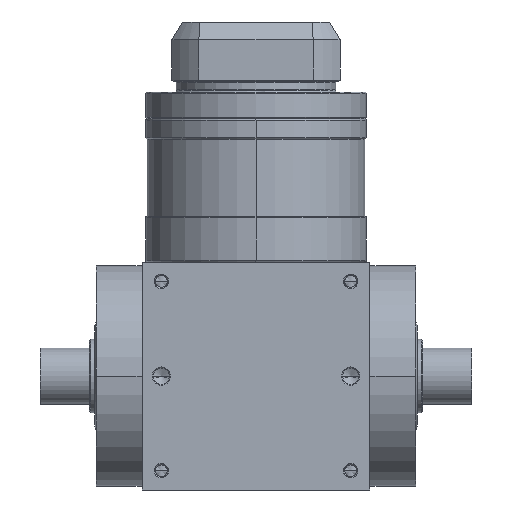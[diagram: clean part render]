
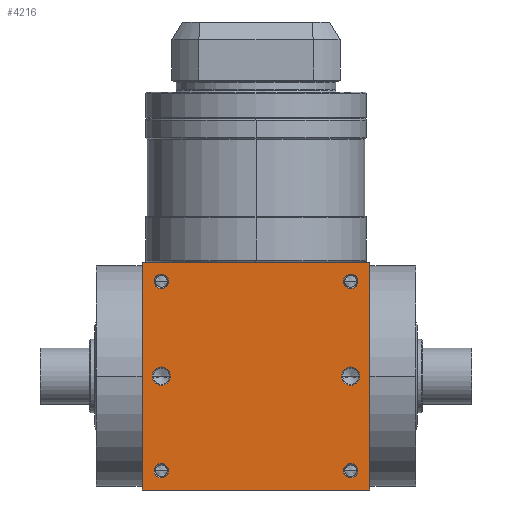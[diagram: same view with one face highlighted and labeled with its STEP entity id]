
A CAD part, front view. The second image highlights one B-rep face of the part: STEP entity #4216.
In plain terms, the highlighted planar face has unit normal (0, -1, 0).
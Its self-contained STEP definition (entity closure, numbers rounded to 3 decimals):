
#5=DIRECTION('',(1.,0.,0.));
#6=VECTOR('',#5,65.);
#7=CARTESIAN_POINT('',(-32.5,-32.5,-32.5));
#8=LINE('',#7,#6);
#155=DIRECTION('',(0.,0.,1.));
#156=VECTOR('',#155,65.);
#157=CARTESIAN_POINT('',(32.5,-32.5,-32.5));
#158=LINE('',#157,#156);
#209=DIRECTION('',(0.,0.,1.));
#210=VECTOR('',#209,65.);
#211=CARTESIAN_POINT('',(-32.5,-32.5,-32.5));
#212=LINE('',#211,#210);
#213=CARTESIAN_POINT('',(27.,-32.5,27.));
#214=DIRECTION('',(0.,1.,0.));
#215=DIRECTION('',(-1.,0.,0.));
#216=AXIS2_PLACEMENT_3D('',#213,#214,#215);
#218=CARTESIAN_POINT('',(27.,-32.5,27.));
#219=DIRECTION('',(0.,1.,0.));
#220=DIRECTION('',(1.,0.,0.));
#221=AXIS2_PLACEMENT_3D('',#218,#219,#220);
#223=CARTESIAN_POINT('',(-27.,-32.5,27.));
#224=DIRECTION('',(0.,1.,0.));
#225=DIRECTION('',(-1.,0.,0.));
#226=AXIS2_PLACEMENT_3D('',#223,#224,#225);
#228=CARTESIAN_POINT('',(-27.,-32.5,27.));
#229=DIRECTION('',(0.,1.,0.));
#230=DIRECTION('',(1.,0.,0.));
#231=AXIS2_PLACEMENT_3D('',#228,#229,#230);
#233=CARTESIAN_POINT('',(27.,-32.5,-27.));
#234=DIRECTION('',(0.,1.,0.));
#235=DIRECTION('',(-1.,0.,0.));
#236=AXIS2_PLACEMENT_3D('',#233,#234,#235);
#238=CARTESIAN_POINT('',(27.,-32.5,-27.));
#239=DIRECTION('',(0.,1.,0.));
#240=DIRECTION('',(1.,0.,0.));
#241=AXIS2_PLACEMENT_3D('',#238,#239,#240);
#243=CARTESIAN_POINT('',(-27.,-32.5,-27.));
#244=DIRECTION('',(0.,1.,0.));
#245=DIRECTION('',(-1.,0.,0.));
#246=AXIS2_PLACEMENT_3D('',#243,#244,#245);
#248=CARTESIAN_POINT('',(-27.,-32.5,-27.));
#249=DIRECTION('',(0.,1.,0.));
#250=DIRECTION('',(1.,0.,0.));
#251=AXIS2_PLACEMENT_3D('',#248,#249,#250);
#253=CARTESIAN_POINT('',(-27.,-32.5,0.));
#254=DIRECTION('',(0.,1.,0.));
#255=DIRECTION('',(1.,0.,0.));
#256=AXIS2_PLACEMENT_3D('',#253,#254,#255);
#258=CARTESIAN_POINT('',(-27.,-32.5,0.));
#259=DIRECTION('',(0.,1.,0.));
#260=DIRECTION('',(-1.,0.,0.));
#261=AXIS2_PLACEMENT_3D('',#258,#259,#260);
#263=CARTESIAN_POINT('',(27.,-32.5,0.));
#264=DIRECTION('',(0.,1.,0.));
#265=DIRECTION('',(1.,0.,0.));
#266=AXIS2_PLACEMENT_3D('',#263,#264,#265);
#268=CARTESIAN_POINT('',(27.,-32.5,0.));
#269=DIRECTION('',(0.,1.,0.));
#270=DIRECTION('',(-1.,0.,0.));
#271=AXIS2_PLACEMENT_3D('',#268,#269,#270);
#285=DIRECTION('',(1.,0.,0.));
#286=VECTOR('',#285,65.);
#287=CARTESIAN_POINT('',(-32.5,-32.5,32.5));
#288=LINE('',#287,#286);
#3374=CARTESIAN_POINT('',(-32.5,-32.5,-32.5));
#3376=VERTEX_POINT('',#3374);
#3377=CARTESIAN_POINT('',(32.5,-32.5,-32.5));
#3378=VERTEX_POINT('',#3377);
#3382=CARTESIAN_POINT('',(-32.5,-32.5,32.5));
#3384=VERTEX_POINT('',#3382);
#3385=CARTESIAN_POINT('',(32.5,-32.5,32.5));
#3386=VERTEX_POINT('',#3385);
#3541=CARTESIAN_POINT('',(24.95,-32.5,27.));
#3542=CARTESIAN_POINT('',(29.05,-32.5,27.));
#3543=VERTEX_POINT('',#3541);
#3544=VERTEX_POINT('',#3542);
#3549=CARTESIAN_POINT('',(-29.05,-32.5,27.));
#3550=CARTESIAN_POINT('',(-24.95,-32.5,27.));
#3551=VERTEX_POINT('',#3549);
#3552=VERTEX_POINT('',#3550);
#3557=CARTESIAN_POINT('',(24.95,-32.5,-27.));
#3558=CARTESIAN_POINT('',(29.05,-32.5,-27.));
#3559=VERTEX_POINT('',#3557);
#3560=VERTEX_POINT('',#3558);
#3565=CARTESIAN_POINT('',(-29.05,-32.5,-27.));
#3566=CARTESIAN_POINT('',(-24.95,-32.5,-27.));
#3567=VERTEX_POINT('',#3565);
#3568=VERTEX_POINT('',#3566);
#3889=CARTESIAN_POINT('',(-24.4,-32.5,0.));
#3890=CARTESIAN_POINT('',(-29.6,-32.5,
0.));
#3891=VERTEX_POINT('',#3889);
#3892=VERTEX_POINT('',#3890);
#3897=CARTESIAN_POINT('',(29.6,-32.5,0.));
#3898=CARTESIAN_POINT('',(24.4,-32.5,0.));
#3899=VERTEX_POINT('',#3897);
#3900=VERTEX_POINT('',#3898);
#4168=CARTESIAN_POINT('',(-32.5,-32.5,-32.5));
#4169=DIRECTION('',(0.,-1.,0.));
#4170=DIRECTION('',(1.,0.,0.));
#4171=AXIS2_PLACEMENT_3D('',#4168,#4169,#4170);
#4172=PLANE('',#4171);
#4173=ORIENTED_EDGE('',*,*,#4008,.F.);
#4174=ORIENTED_EDGE('',*,*,#4051,.T.);
#4176=ORIENTED_EDGE('',*,*,#4175,.T.);
#4177=ORIENTED_EDGE('',*,*,#4130,.F.);
#4178=EDGE_LOOP('',(#4173,#4174,#4176,#4177));
#4179=FACE_OUTER_BOUND('',#4178,.F.);
#4181=ORIENTED_EDGE('',*,*,#4180,.F.);
#4183=ORIENTED_EDGE('',*,*,#4182,.F.);
#4184=EDGE_LOOP('',(#4181,#4183));
#4185=FACE_BOUND('',#4184,.F.);
#4187=ORIENTED_EDGE('',*,*,#4186,.F.);
#4189=ORIENTED_EDGE('',*,*,#4188,.F.);
#4190=EDGE_LOOP('',(#4187,#4189));
#4191=FACE_BOUND('',#4190,.F.);
#4193=ORIENTED_EDGE('',*,*,#4192,.F.);
#4195=ORIENTED_EDGE('',*,*,#4194,.F.);
#4196=EDGE_LOOP('',(#4193,#4195));
#4197=FACE_BOUND('',#4196,.F.);
#4199=ORIENTED_EDGE('',*,*,#4198,.F.);
#4201=ORIENTED_EDGE('',*,*,#4200,.F.);
#4202=EDGE_LOOP('',(#4199,#4201));
#4203=FACE_BOUND('',#4202,.F.);
#4205=ORIENTED_EDGE('',*,*,#4204,.F.);
#4207=ORIENTED_EDGE('',*,*,#4206,.F.);
#4208=EDGE_LOOP('',(#4205,#4207));
#4209=FACE_BOUND('',#4208,.F.);
#4211=ORIENTED_EDGE('',*,*,#4210,.F.);
#4213=ORIENTED_EDGE('',*,*,#4212,.F.);
#4214=EDGE_LOOP('',(#4211,#4213));
#4215=FACE_BOUND('',#4214,.F.);
#4216=ADVANCED_FACE('',(#4179,#4185,#4191,#4197,#4203,#4209,#4215),#4172,.T.);
#217=CIRCLE('',#216,2.05);
#222=CIRCLE('',#221,2.05);
#227=CIRCLE('',#226,2.05);
#232=CIRCLE('',#231,2.05);
#237=CIRCLE('',#236,2.05);
#242=CIRCLE('',#241,2.05);
#247=CIRCLE('',#246,2.05);
#252=CIRCLE('',#251,2.05);
#257=CIRCLE('',#256,2.6);
#262=CIRCLE('',#261,2.6);
#267=CIRCLE('',#266,2.6);
#272=CIRCLE('',#271,2.6);
#4008=EDGE_CURVE('',#3376,#3378,#8,.T.);
#4051=EDGE_CURVE('',#3376,#3384,#212,.T.);
#4130=EDGE_CURVE('',#3378,#3386,#158,.T.);
#4175=EDGE_CURVE('',#3384,#3386,#288,.T.);
#4180=EDGE_CURVE('',#3543,#3544,#217,.T.);
#4182=EDGE_CURVE('',#3544,#3543,#222,.T.);
#4186=EDGE_CURVE('',#3551,#3552,#227,.T.);
#4188=EDGE_CURVE('',#3552,#3551,#232,.T.);
#4192=EDGE_CURVE('',#3559,#3560,#237,.T.);
#4194=EDGE_CURVE('',#3560,#3559,#242,.T.);
#4198=EDGE_CURVE('',#3567,#3568,#247,.T.);
#4200=EDGE_CURVE('',#3568,#3567,#252,.T.);
#4204=EDGE_CURVE('',#3891,#3892,#257,.T.);
#4206=EDGE_CURVE('',#3892,#3891,#262,.T.);
#4210=EDGE_CURVE('',#3899,#3900,#267,.T.);
#4212=EDGE_CURVE('',#3900,#3899,#272,.T.);
